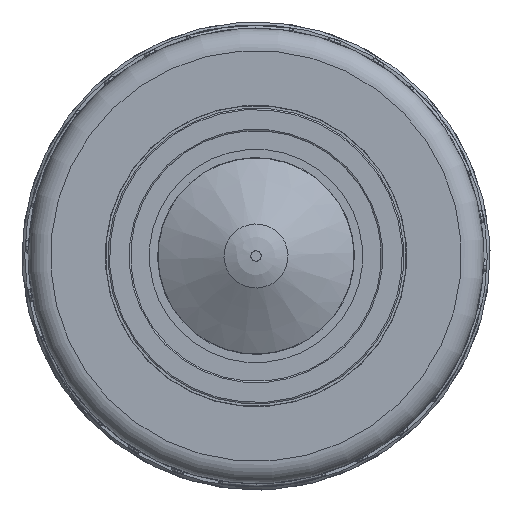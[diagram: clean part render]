
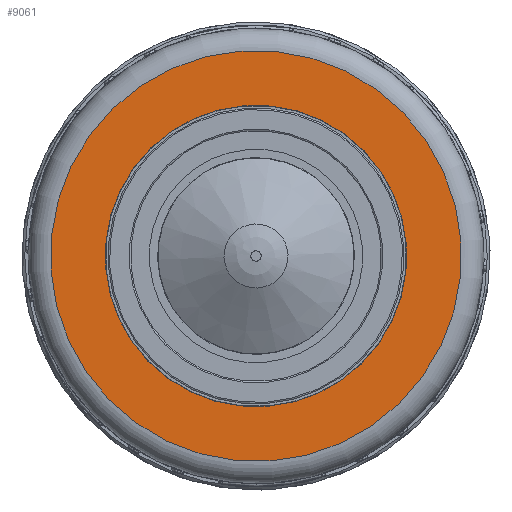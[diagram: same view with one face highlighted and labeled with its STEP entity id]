
A CAD part, front view. The second image highlights one B-rep face of the part: STEP entity #9061.
In plain terms, the highlighted planar face has unit normal (0, -1, 0).
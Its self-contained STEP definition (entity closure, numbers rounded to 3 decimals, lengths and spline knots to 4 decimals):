
#1778=FACE_BOUND('',#2931,.T.);
#2301=FACE_OUTER_BOUND('',#2930,.T.);
#2930=EDGE_LOOP('',(#7744));
#2931=EDGE_LOOP('',(#7745));
#3382=CIRCLE('',#9884,7.375);
#3383=CIRCLE('',#9885,5.41);
#4189=VERTEX_POINT('',#59901);
#4190=VERTEX_POINT('',#59903);
#5407=EDGE_CURVE('',#4189,#4189,#3382,.T.);
#5408=EDGE_CURVE('',#4190,#4190,#3383,.T.);
#7744=ORIENTED_EDGE('',*,*,#5407,.F.);
#7745=ORIENTED_EDGE('',*,*,#5408,.T.);
#8016=PLANE('',#9883);
#9061=ADVANCED_FACE('',(#2301,#1778),#8016,.T.);
#9883=AXIS2_PLACEMENT_3D('',#59900,#12042,#12043);
#9884=AXIS2_PLACEMENT_3D('',#59902,#12044,#12045);
#9885=AXIS2_PLACEMENT_3D('',#59904,#12046,#12047);
#12042=DIRECTION('center_axis',(0.,-1.,0.));
#12043=DIRECTION('ref_axis',(-0.562,0.,0.827));
#12044=DIRECTION('center_axis',(0.,1.,0.));
#12045=DIRECTION('ref_axis',(-0.827,0.,-0.562));
#12046=DIRECTION('center_axis',(0.,1.,0.));
#12047=DIRECTION('ref_axis',(-0.827,0.,-0.562));
#59900=CARTESIAN_POINT('Origin',(6.1002,-8.7701,4.1447));
#59901=CARTESIAN_POINT('',(6.1002,-8.7701,4.1447));
#59902=CARTESIAN_POINT('Origin',(0.,-8.7701,
0.));
#59903=CARTESIAN_POINT('',(4.4748,-8.7701,3.0404));
#59904=CARTESIAN_POINT('Origin',(0.,-8.7701,
0.));
